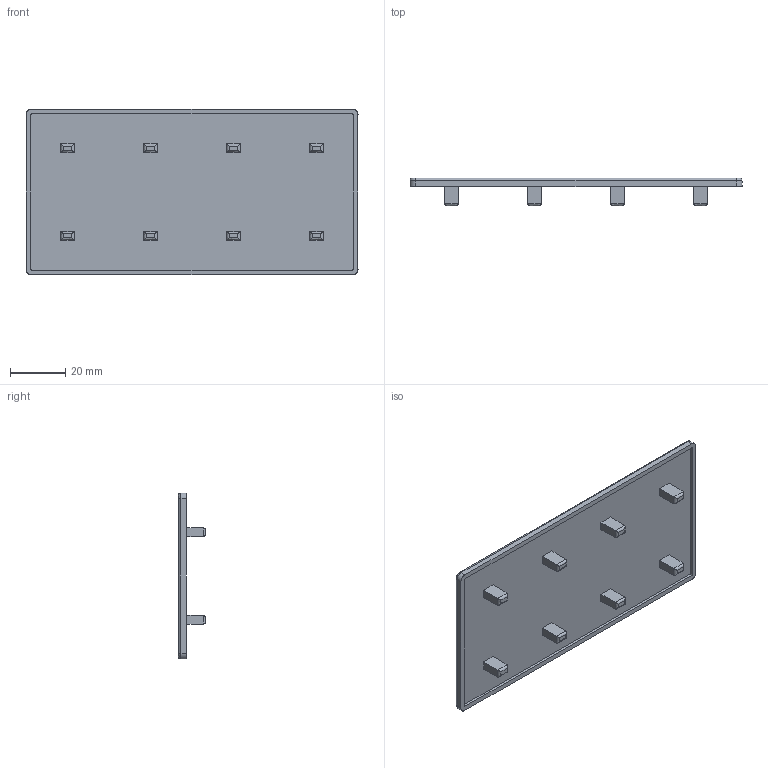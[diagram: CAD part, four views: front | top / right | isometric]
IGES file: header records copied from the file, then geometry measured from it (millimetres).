
Start section: SolidWorks IGES file using analytic representation for surfaces
Global section: file name: C:\Users\admin\Desktop\IGES\J3C612.igs; native system: SolidWorks 2014; preprocessor: SolidWorks 2014; author: admin_pc; date: 170524.165404; units: millimetre
Bounding box: 120 x 10 x 60 mm (x, y, z)
Surface area: 16614.9 mm2 (no closed solid volume)
Topology: 0 solids, 0 shells, 99 faces, 784 edges, 784 vertices
Faces by surface type: bspline 55, revolution 44
